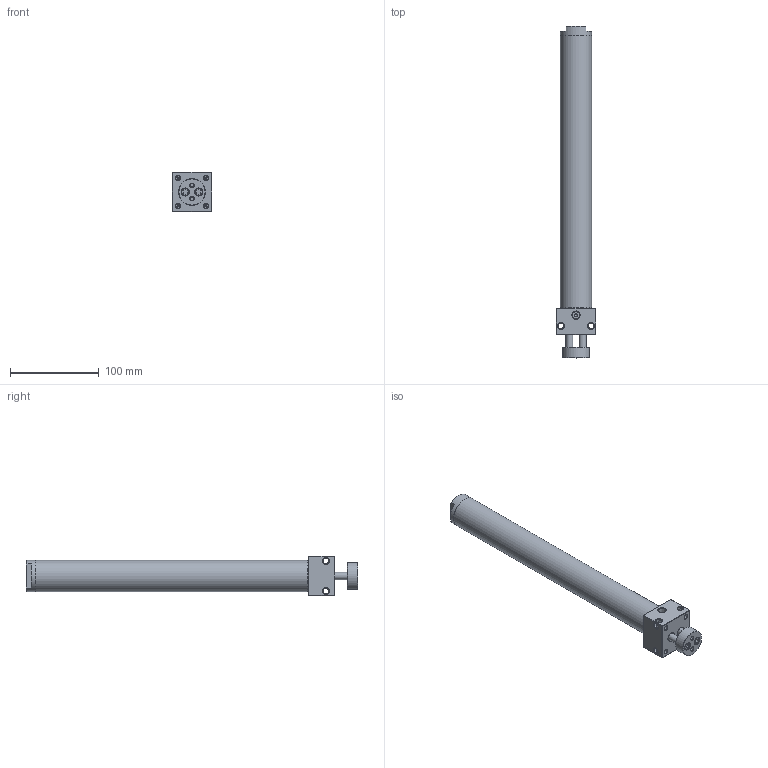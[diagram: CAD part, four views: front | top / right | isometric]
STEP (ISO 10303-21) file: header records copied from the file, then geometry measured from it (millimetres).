
FILE_DESCRIPTION((''),'2;1');
FILE_NAME('I:\3D電子目錄\氣缸\DBT\DBT\DBT30\DBT30x250.stp','2007-10-08T08:58:12',('Administrator'),(''),'Autodesk Inventor 2008','Autodesk Inventor 2008','');
FILE_SCHEMA(('AUTOMOTIVE_DESIGN { 1 0 10303 214 1 1 1 1 }'));
Length unit declared in the file: millimetre
Products named in the file (1): DBT30x250
Bounding box: 44 x 373 x 44 mm (x, y, z)
Volume: 158656.2 mm3; surface area: 89517.7 mm2
Topology: 5 solids, 5 shells, 167 faces, 388 edges, 234 vertices
Faces by surface type: plane 56, bspline 53, cone 37, cylinder 21
Full cylindrical faces by diameter (mm): 4.3 x1, 5 x1, 8 x3, 8.5 x1, 10 x1, 11 x1, 18 x1, 28.8 x2, 30 x2, 30.8 x2, 32 x2, 32.2 x2, 35 x2
Entity records: 5064 total; most frequent: CARTESIAN_POINT 1888, DIRECTION 604, ORIENTED_EDGE 538, EDGE_LOOP 298, EDGE_CURVE 269, AXIS2_PLACEMENT_3D 256, VERTEX_POINT 207, FACE_OUTER_BOUND 167
